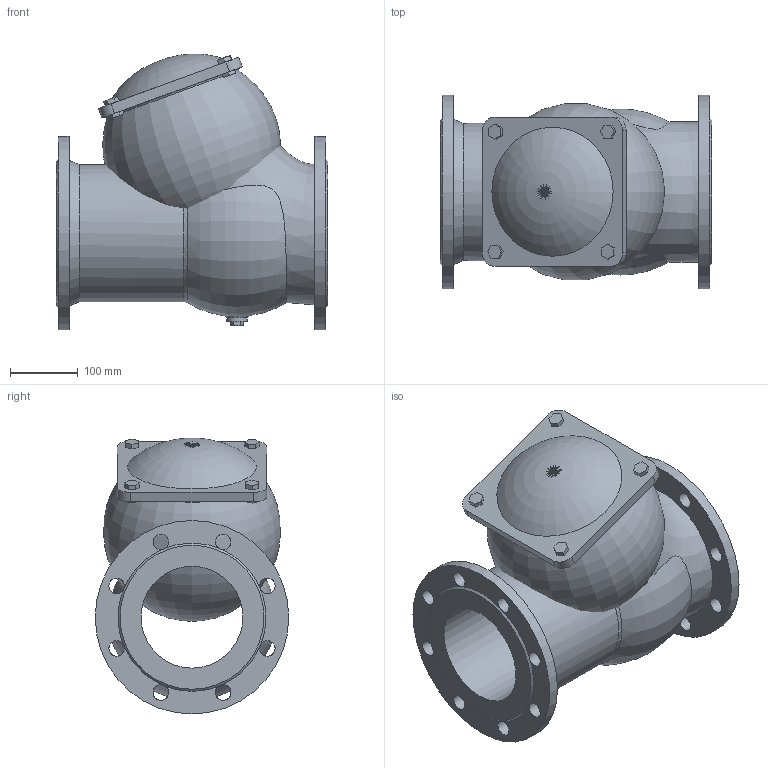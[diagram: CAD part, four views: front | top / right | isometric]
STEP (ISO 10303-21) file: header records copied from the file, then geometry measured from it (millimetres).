
FILE_DESCRIPTION(('STEP AP203'), '1');
FILE_NAME('抔黽鳧 012F.M DN150', '', ('UNSPECIFIED'), ('UNSPECIFIED'), 'ASCON STEP Converter 1.6', 'ASCON Math Kernel', '');
FILE_SCHEMA(('CONFIG_CONTROL_DESIGN'));
Length unit declared in the file: millimetre
Products named in the file (1): Клапан 012F.M DN150
Bounding box: 400 x 285 x 406.45 mm (x, y, z)
Surface area: 972786.8 mm2 (no closed solid volume)
Topology: 0 solids, 1 shells, 151 faces, 404 edges, 251 vertices
Faces by surface type: plane 102, cylinder 39, bspline 4, cone 3, torus 3
Full cylindrical faces by diameter (mm): 23 x16, 30 x1, 150 x1, 202 x1, 285 x2
Entity records: 9597 total; most frequent: CARTESIAN_POINT 4644, DIRECTION 763, ORIENTED_EDGE 740, EDGE_CURVE 373, AXIS2_PLACEMENT_3D 282, VERTEX_POINT 249, EDGE_LOOP 215, LINE 199
